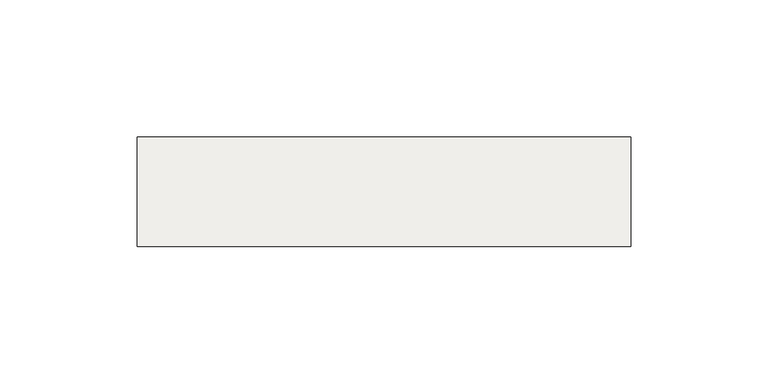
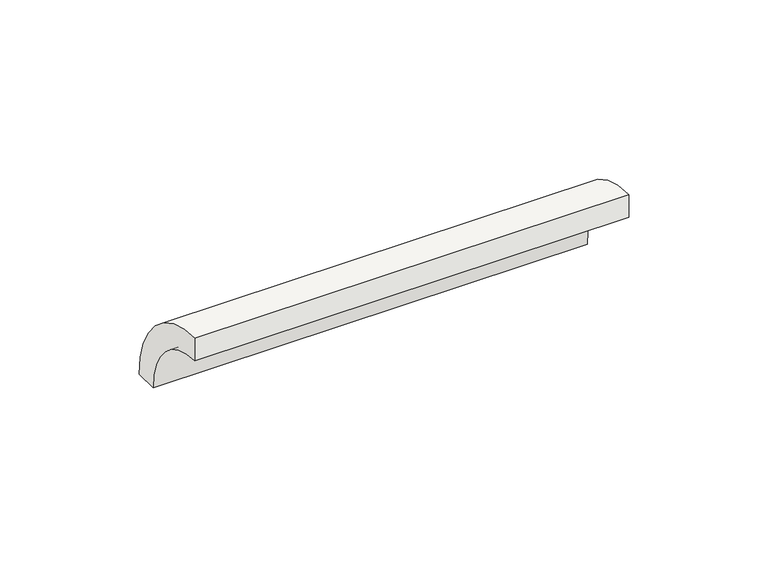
"""IFC4 building model written with IfcOpenShell, lengths in millimetres: slab geometry, ROSA GRES_138 : Pieza 138_Aqua_Plomo_Anti-Slip."""

from ifc_helpers import new_model, si_unit, point, frame, frame_2d, origin, origin_2d, place, context, project, spatial, polyline, circle_curve, trimmed, segment, composite_curve, outline, extrude, source, transform, mapped, element, save


def slab_389d30d9(model_context):
    return source(origin(), model_context, "Body", "SweptSolid", [
        extrude(outline(composite_curve([segment(trimmed(circle_curve(origin_2d(), 40.0), [point((0.0, 40.0))], [point((40.0, 0.0))], False, "CARTESIAN"), True, "CONTINUOUS"), segment(polyline([(40.0, 0.0), (30.0265886, 0.0)]), True, "CONTINUOUS"), segment(trimmed(circle_curve(frame_2d((0.0044453, 0.0044453)), 30.0221435), [point((30.0265886, 0.0))], [point((0.0, 30.0265886))], True, "CARTESIAN"), True, "CONTINUOUS"), segment(polyline([(0.0, 30.0265886), (0.0, 40.0)]), True, "CONTINUOUS")], self_intersect=False)), frame((0.0, 0.0, 0.0), z_axis=(1.0, 0.0, 0.0), x_axis=(0.0, 1.0, 0.0)), (0.0, 0.0, 1.0), 180.0),
    ])


if __name__ == "__main__":
    model = new_model("IFC4")
    model_context = context("Model", 3, world=origin())
    ifc_project = project(units=[si_unit("LENGTHUNIT", "METRE", prefix="MILLI")], contexts=[model_context])
    site = spatial("IfcSite", under=ifc_project)
    building = spatial("IfcBuilding", under=site)
    placement = place(None, origin())
    slab_shape = slab_389d30d9(model_context)
    element("IfcSlab", 1, ObjectType="ROSA GRES_138 : Pieza 138_Aqua_Plomo_Anti-Slip", at=placement, inside=building, context=model_context, shape_type="MappedRepresentation", body=[
        mapped(slab_shape, transform((0.0, 0.0, 0.0), x_axis=(1.0, 0.0, 0.0), y_axis=(0.0, 1.0, 0.0), z_axis=(0.0, 0.0, 1.0))),
    ])
    save(model, "model.ifc")
